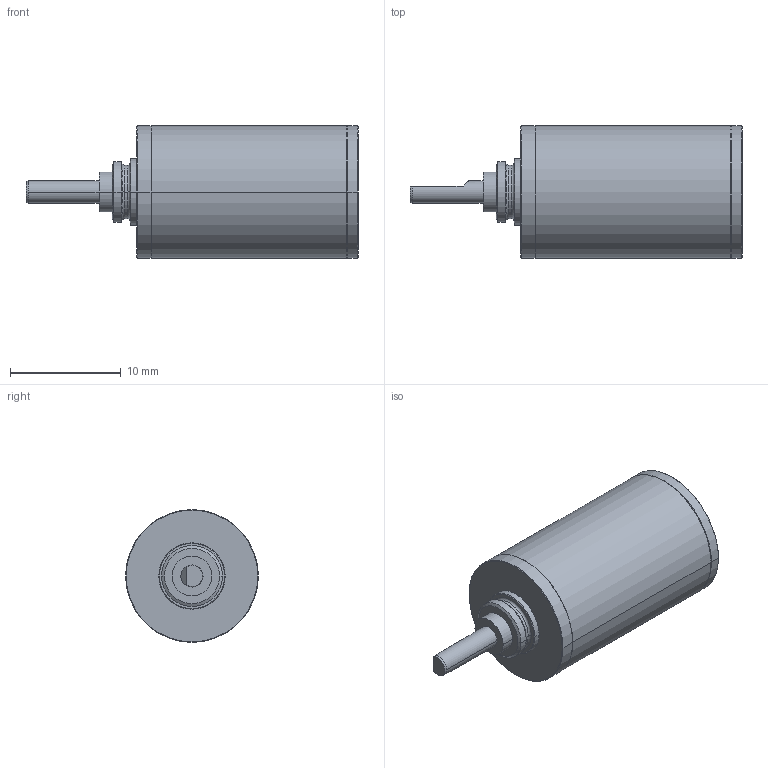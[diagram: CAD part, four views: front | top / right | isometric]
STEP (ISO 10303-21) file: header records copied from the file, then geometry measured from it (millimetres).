
FILE_DESCRIPTION((''),'2;1');
FILE_NAME('GS12A','2016-10-06T',('mmagpetk'),(''),'CREO PARAMETRIC BY PTC INC, 2016050','CREO PARAMETRIC BY PTC INC, 2016050','');
FILE_SCHEMA(('CONFIG_CONTROL_DESIGN'));
Length unit declared in the file: millimetre
Products named in the file (1): GS12A
Bounding box: 30 x 12 x 12 mm (x, y, z)
Volume: 2123.6 mm3; surface area: 1431.3 mm2
Topology: 1 solids, 2 shells, 100 faces, 213 edges, 128 vertices
Faces by surface type: cylinder 36, cone 27, plane 25, torus 12
Entity records: 3529 total; most frequent: CARTESIAN_POINT 528, DIRECTION 524, ORIENTED_EDGE 426, AXIS2_PLACEMENT_3D 225, PRESENTATION_STYLE_ASSIGNMENT 214, STYLED_ITEM 214, CURVE_STYLE 213, EDGE_CURVE 213
